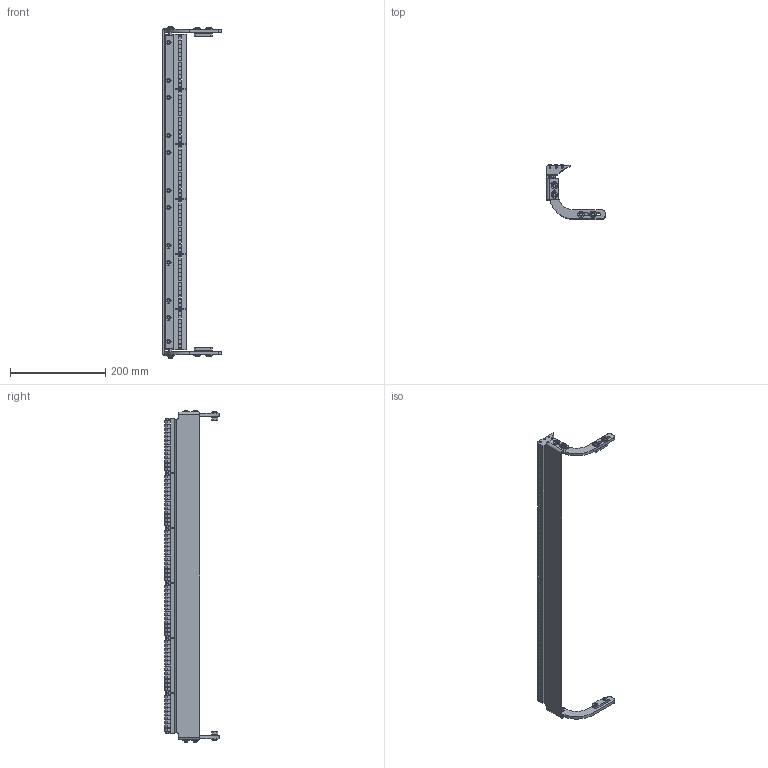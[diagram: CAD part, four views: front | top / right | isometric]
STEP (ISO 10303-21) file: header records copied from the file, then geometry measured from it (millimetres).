
FILE_DESCRIPTION((''),'2;1');
FILE_NAME('518355-26_ASM','2023-03-24T',('jenni.wallner'),(''),'PRO/ENGINEER BY PARAMETRIC TECHNOLOGY CORPORATION, 2012420','PRO/ENGINEER BY PARAMETRIC TECHNOLOGY CORPORATION, 2012420','');
FILE_SCHEMA(('CONFIG_CONTROL_DESIGN'));
Length unit declared in the file: inch
Products named in the file (75): 960616MSSF; 532387; 807-1830_31-1-SOLID1; 807-1830_4-1-SOLID1; 807-1830_34-1-SOLID1; 807-1830_7-1-SOLID1; 807-1830_19-1-SOLID1; 807-1830_11-1-SOLID1; 807-1830_8-1-SOLID1; 807-1830_35-1-SOLID1; 807-1830_36-1-SOLID1; 807-1830_26-1-SOLID1; 807-1830_16-1-SOLID1; 807-1830_3-1-SOLID1; 807-1830_2-1-SOLID1; 807-1830_1-1-SOLID1; 807-1830_25-1-SOLID1; 807-1830_27-1-SOLID1; 807-1830_15-1-SOLID1; 807-1830_17-1-SOLID1; 807-1830_20-1-SOLID1; 807-1830_6-1-SOLID1; 807-1830_9-1-SOLID1; 807-1830_30-1-SOLID1; 807-1830_29-1-SOLID1; 807-1830_18-1-SOLID1; 807-1830_28-1-SOLID1; 807-1830_12-1-SOLID1; 807-1830_13-1-SOLID1; 807-1830_10-1-SOLID1; 807-1830_22-1-SOLID1; 807-1830_21-1-SOLID1; 807-1830_14-1-SOLID1; 807-1830_32-1-SOLID1; 807-1830_5-1-SOLID1; 807-1830_23-1-SOLID1; 807-1830-1-SOLID1; 807-1830_24-1-SOLID1; 807-1830_33-1-SOLID1; 807-1830_ASM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
Assembly tree (87 placements, depth 4):
  518355-26_ASM
    ASM0001_ASM
      960616MSSF  x8
      532387  x2
      807-1830_ASM  x5
        807-1830_31-1-SOLID1
        807-1830_4-1-SOLID1
        807-1830_34-1-SOLID1
        807-1830_7-1-SOLID1
        807-1830_19-1-SOLID1
        807-1830_11-1-SOLID1
        807-1830_8-1-SOLID1
        807-1830_35-1-SOLID1
        807-1830_36-1-SOLID1
        807-1830_26-1-SOLID1
        807-1830_16-1-SOLID1
        807-1830_3-1-SOLID1
        807-1830_2-1-SOLID1
        807-1830_1-1-SOLID1
        807-1830_25-1-SOLID1
        807-1830_27-1-SOLID1
        807-1830_15-1-SOLID1
        807-1830_17-1-SOLID1
        807-1830_20-1-SOLID1
        807-1830_6-1-SOLID1
        807-1830_9-1-SOLID1
        807-1830_30-1-SOLID1
        807-1830_29-1-SOLID1
        807-1830_18-1-SOLID1
        807-1830_28-1-SOLID1
        807-1830_12-1-SOLID1
        807-1830_13-1-SOLID1
        807-1830_10-1-SOLID1
        807-1830_22-1-SOLID1
        807-1830_21-1-SOLID1
        807-1830_14-1-SOLID1
        807-1830_32-1-SOLID1
        807-1830_5-1-SOLID1
        807-1830_23-1-SOLID1
        807-1830-1-SOLID1
        807-1830_24-1-SOLID1
        807-1830_33-1-SOLID1
      807-1829_ASM
        CUT-EXTRUDE1_1_
        807-1829_25-1-SOLID1
        807-1829_1-1-SOLID1
        807-1829_8-1-SOLID1
        807-1829_7-1-SOLID1
        807-1829_18-1-SOLID1
        807-1829_26-1-SOLID1
        807-1829_6-1-SOLID1
        807-1829_9-1-SOLID1
        807-1829_17-1-SOLID1
        807-1829_11-1-SOLID1
        807-1829_27-1-SOLID1
        807-1829_2-1-SOLID1
        807-1829_14-1-SOLID1
        807-1829_20-1-SOLID1
        CUT-EXTRUDE1_3_
        807-1829_12-1-SOLID1
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Bounding box: 122.82 x 114.68 x 698.92 mm (x, y, z)
Volume: 525926.1 mm3; surface area: 320201.4 mm2
Topology: 228 solids, 228 shells, 1541 faces, 3055 edges, 2017 vertices
Faces by surface type: plane 768, cylinder 717, cone 56
Entity records: 16685 total; most frequent: DIRECTION 3208, CARTESIAN_POINT 2677, ORIENTED_EDGE 2218, AXIS2_PLACEMENT_3D 1329, EDGE_CURVE 1109, VERTEX_POINT 733, EDGE_LOOP 616, CIRCLE 553
